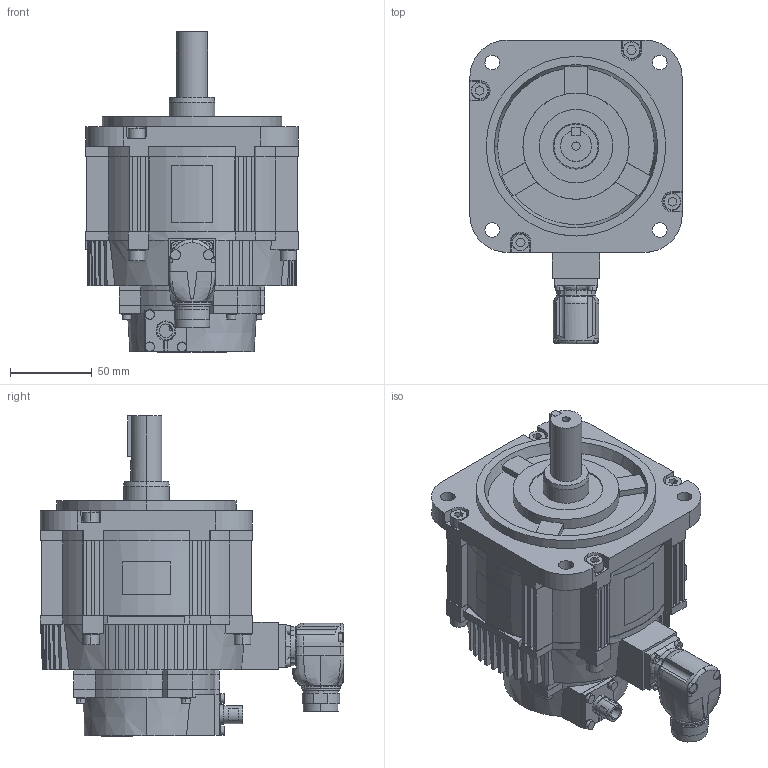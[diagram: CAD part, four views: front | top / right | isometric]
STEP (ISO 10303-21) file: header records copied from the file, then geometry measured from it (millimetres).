
FILE_DESCRIPTION (( 'STEP AP203' ), '1' );
FILE_NAME ('sgm7g_09d_rkf.STEP', '2016-08-20T16:37:49', ( '安川電機' ), ( 'YASKAWA' ), 'SwSTEP 2.0', 'SolidWorks 2006303', '' );
FILE_SCHEMA (( 'CONFIG_CONTROL_DESIGN' ));
Length unit declared in the file: millimetre
Products named in the file (4): sgm7g_09d_rkf_key; sgm7g_09d_rkf_base; sgm7g_09d_rkf_connector; sgm7g_09d_rkf
Assembly tree (3 placements, depth 2):
  sgm7g_09d_rkf
    sgm7g_09d_rkf_key
    sgm7g_09d_rkf_base
    sgm7g_09d_rkf_connector
Bounding box: 130 x 185.9 x 196.1 mm (x, y, z)
Volume: 1647221.6 mm3; surface area: 136402.8 mm2
Topology: 3 solids, 3 shells, 993 faces, 2616 edges, 1700 vertices
Faces by surface type: plane 642, cylinder 234, cone 88, bspline 20, torus 9
Entity records: 32658 total; most frequent: CARTESIAN_POINT 7513, ORIENTED_EDGE 5228, DIRECTION 5115, EDGE_CURVE 2614, AXIS2_PLACEMENT_3D 1753, VERTEX_POINT 1700, LINE 1609, VECTOR 1609
